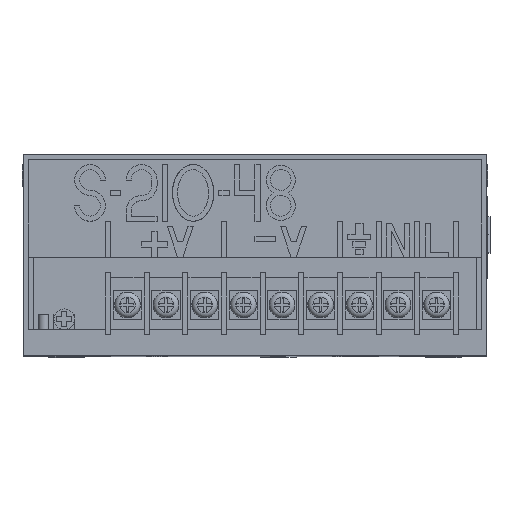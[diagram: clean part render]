
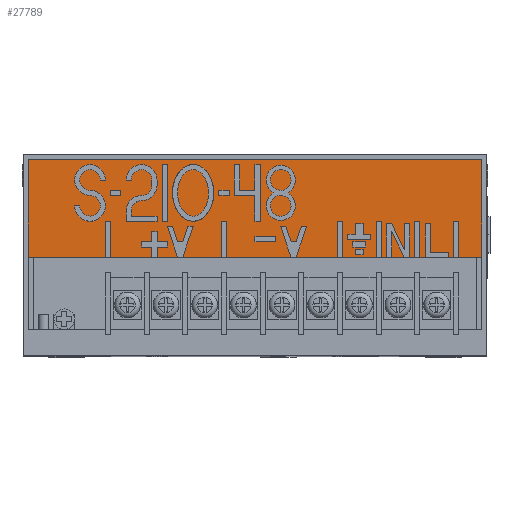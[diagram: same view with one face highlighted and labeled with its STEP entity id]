
A CAD part, top view. The second image highlights one B-rep face of the part: STEP entity #27789.
In plain terms, the highlighted planar face has unit normal (0, 0, 1).
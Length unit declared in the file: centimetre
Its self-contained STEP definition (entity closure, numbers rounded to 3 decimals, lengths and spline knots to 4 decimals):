
#7534=VERTEX_POINT('',#84437);
#7535=VERTEX_POINT('',#84438);
#7538=VERTEX_POINT('',#84446);
#7540=VERTEX_POINT('',#84452);
#12052=EDGE_CURVE('',#7534,#7535,#44061,.T.);
#12056=EDGE_CURVE('',#7535,#7538,#44065,.T.);
#12059=EDGE_CURVE('',#7538,#7540,#44068,.T.);
#12062=EDGE_CURVE('',#7540,#7534,#44071,.T.);
#20816=ORIENTED_EDGE('',*,*,#12052,.F.);
#20817=ORIENTED_EDGE('',*,*,#12062,.F.);
#20818=ORIENTED_EDGE('',*,*,#12059,.F.);
#20819=ORIENTED_EDGE('',*,*,#12056,.F.);
#24126=EDGE_LOOP('',(#20816,#20817,#20818,#20819));
#26117=FACE_BOUND('',#24126,.T.);
#27789=ADVANCED_FACE('',(#26117),#68808,.T.);
#44061=LINE('',#84436,#66909);
#44065=LINE('',#84445,#66913);
#44068=LINE('',#84451,#66916);
#44071=LINE('',#84457,#66919);
#62448=AXIS2_PLACEMENT_3D('',#84459,#94386,$);
#66909=VECTOR('',#94371,1.);
#66913=VECTOR('',#94376,1.);
#66916=VECTOR('',#94380,1.);
#66919=VECTOR('',#94384,1.);
#68808=PLANE('',#62448);
#84436=CARTESIAN_POINT('',(8.255,4.826,10.5664));
#84437=CARTESIAN_POINT('',(-2.921,4.826,10.5664));
#84438=CARTESIAN_POINT('',(8.255,4.826,10.5664));
#84445=CARTESIAN_POINT('',(8.255,2.413,10.5664));
#84446=CARTESIAN_POINT('',(8.255,2.413,10.5664));
#84451=CARTESIAN_POINT('',(-2.921,2.413,10.5664));
#84452=CARTESIAN_POINT('',(-2.921,2.413,10.5664));
#84457=CARTESIAN_POINT('',(-2.921,4.826,10.5664));
#84459=CARTESIAN_POINT('',(2.667,3.6195,10.5664));
#94371=DIRECTION('',(1.,0.,0.));
#94376=DIRECTION('',(0.,-1.,0.));
#94380=DIRECTION('',(-1.,0.,0.));
#94384=DIRECTION('',(0.,1.,0.));
#94386=DIRECTION('',(0.,0.,1.));
